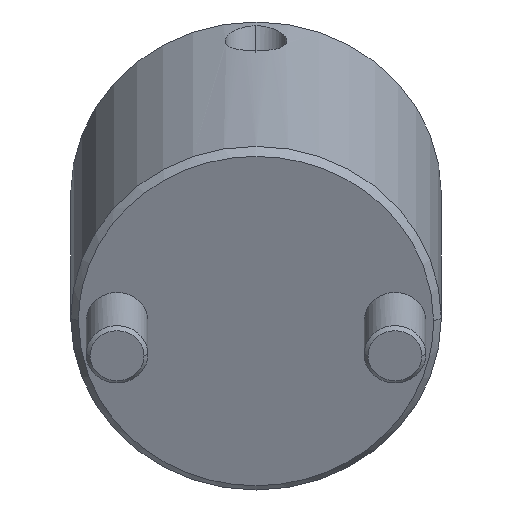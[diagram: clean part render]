
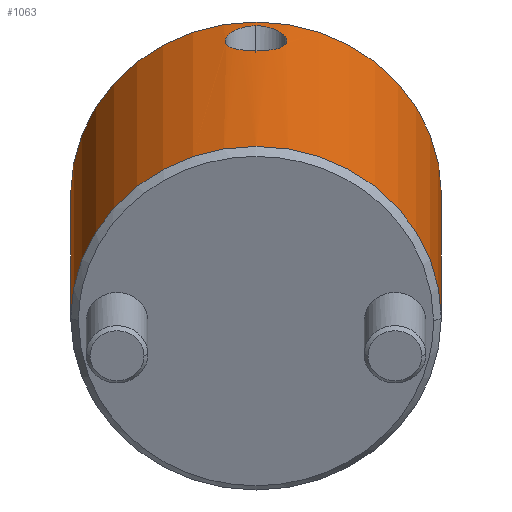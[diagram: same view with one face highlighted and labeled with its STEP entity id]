
A CAD part, front view. The second image highlights one B-rep face of the part: STEP entity #1063.
In plain terms, the highlighted cylindrical face has radius 24 mm (diameter 48 mm), a partial arc.
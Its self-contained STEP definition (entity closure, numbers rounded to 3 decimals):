
#805=CARTESIAN_POINT('Vertex',(0.,24.,1.)) ;
#808=CARTESIAN_POINT('Axis2P3D Location',(0.,0.,1.)) ;
#812=CARTESIAN_POINT('Vertex',(0.,-24.,1.)) ;
#964=CARTESIAN_POINT('Axis2P3D Location',(0.,0.,-2.25)) ;
#969=CARTESIAN_POINT('Line Origine',(0.,24.,-2.25)) ;
#973=CARTESIAN_POINT('Vertex',(0.,24.,44.)) ;
#976=CARTESIAN_POINT('Axis2P3D Location',(0.,0.,44.)) ;
#980=CARTESIAN_POINT('Vertex',(0.,-24.,44.)) ;
#983=CARTESIAN_POINT('Line Origine',(0.,-24.,-2.25)) ;
#995=CARTESIAN_POINT('Control Point',(24.,0.,42.696)) ;
#996=CARTESIAN_POINT('Control Point',(24.,0.373,42.696)) ;
#997=CARTESIAN_POINT('Control Point',(23.993,0.739,42.646)) ;
#998=CARTESIAN_POINT('Control Point',(23.979,1.097,42.549)) ;
#999=CARTESIAN_POINT('Control Point',(23.939,1.793,42.264)) ;
#1000=CARTESIAN_POINT('Control Point',(23.881,2.415,41.809)) ;
#1001=CARTESIAN_POINT('Control Point',(23.849,2.711,41.532)) ;
#1002=CARTESIAN_POINT('Control Point',(23.79,3.182,40.976)) ;
#1003=CARTESIAN_POINT('Control Point',(23.739,3.536,40.33)) ;
#1004=CARTESIAN_POINT('Control Point',(23.719,3.664,40.041)) ;
#1005=CARTESIAN_POINT('Control Point',(23.686,3.874,39.44)) ;
#1006=CARTESIAN_POINT('Control Point',(23.667,3.981,38.813)) ;
#1007=CARTESIAN_POINT('Control Point',(23.663,4.01,38.496)) ;
#1008=CARTESIAN_POINT('Control Point',(23.663,4.011,37.97)) ;
#1009=CARTESIAN_POINT('Control Point',(23.675,3.939,37.455)) ;
#1010=CARTESIAN_POINT('Control Point',(23.681,3.899,37.255)) ;
#1011=CARTESIAN_POINT('Control Point',(23.706,3.746,36.668)) ;
#1012=CARTESIAN_POINT('Control Point',(23.745,3.497,36.124)) ;
#1013=CARTESIAN_POINT('Control Point',(23.775,3.289,35.783)) ;
#1014=CARTESIAN_POINT('Control Point',(23.832,2.858,35.241)) ;
#1015=CARTESIAN_POINT('Control Point',(23.889,2.326,34.806)) ;
#1016=CARTESIAN_POINT('Control Point',(23.911,2.084,34.644)) ;
#1017=CARTESIAN_POINT('Control Point',(23.954,1.546,34.35)) ;
#1018=CARTESIAN_POINT('Control Point',(23.984,0.96,34.166)) ;
#1019=CARTESIAN_POINT('Control Point',(23.995,0.644,34.1)) ;
#1020=CARTESIAN_POINT('Control Point',(24.,0.323,34.068)) ;
#1021=CARTESIAN_POINT('Control Point',(24.,0.,34.068)) ;
#1022=CARTESIAN_POINT('Vertex',(24.,0.,42.696)) ;
#1024=CARTESIAN_POINT('Vertex',(24.,0.,34.068)) ;
#1028=CARTESIAN_POINT('Control Point',(24.,0.,34.068)) ;
#1029=CARTESIAN_POINT('Control Point',(24.,-0.486,34.068)) ;
#1030=CARTESIAN_POINT('Control Point',(23.988,-0.966,34.141)) ;
#1031=CARTESIAN_POINT('Control Point',(23.963,-1.435,34.289)) ;
#1032=CARTESIAN_POINT('Control Point',(23.91,-2.136,34.637)) ;
#1033=CARTESIAN_POINT('Control Point',(23.846,-2.731,35.144)) ;
#1034=CARTESIAN_POINT('Control Point',(23.821,-2.936,35.354)) ;
#1035=CARTESIAN_POINT('Control Point',(23.772,-3.308,35.815)) ;
#1036=CARTESIAN_POINT('Control Point',(23.73,-3.592,36.337)) ;
#1037=CARTESIAN_POINT('Control Point',(23.712,-3.712,36.613)) ;
#1038=CARTESIAN_POINT('Control Point',(23.681,-3.903,37.188)) ;
#1039=CARTESIAN_POINT('Control Point',(23.665,-3.994,37.799)) ;
#1040=CARTESIAN_POINT('Control Point',(23.662,-4.014,38.113)) ;
#1041=CARTESIAN_POINT('Control Point',(23.664,-4.002,38.641)) ;
#1042=CARTESIAN_POINT('Control Point',(23.678,-3.918,39.161)) ;
#1043=CARTESIAN_POINT('Control Point',(23.686,-3.872,39.367)) ;
#1044=CARTESIAN_POINT('Control Point',(23.704,-3.758,39.776)) ;
#1045=CARTESIAN_POINT('Control Point',(23.729,-3.6,40.171)) ;
#1046=CARTESIAN_POINT('Control Point',(23.742,-3.51,40.362)) ;
#1047=CARTESIAN_POINT('Control Point',(23.771,-3.31,40.733)) ;
#1048=CARTESIAN_POINT('Control Point',(23.803,-3.071,41.078)) ;
#1049=CARTESIAN_POINT('Control Point',(23.82,-2.941,41.243)) ;
#1050=CARTESIAN_POINT('Control Point',(23.86,-2.605,41.624)) ;
#1051=CARTESIAN_POINT('Control Point',(23.898,-2.226,41.944)) ;
#1052=CARTESIAN_POINT('Control Point',(23.92,-1.985,42.113)) ;
#1053=CARTESIAN_POINT('Control Point',(23.959,-1.469,42.408)) ;
#1054=CARTESIAN_POINT('Control Point',(23.985,-0.91,42.595)) ;
#1055=CARTESIAN_POINT('Control Point',(23.995,-0.612,42.662)) ;
#1056=CARTESIAN_POINT('Control Point',(24.,-0.308,42.696)) ;
#1057=CARTESIAN_POINT('Control Point',(24.,0.,42.696)) ;
#809=DIRECTION('Axis2P3D Direction',(0.,0.,1.)) ;
#965=DIRECTION('Axis2P3D Direction',(0.,-0.,1.)) ;
#966=DIRECTION('Axis2P3D XDirection',(0.,-1.,0.)) ;
#970=DIRECTION('Vector Direction',(0.,0.,1.)) ;
#977=DIRECTION('Axis2P3D Direction',(0.,-0.,1.)) ;
#984=DIRECTION('Vector Direction',(0.,0.,1.)) ;
#810=AXIS2_PLACEMENT_3D('Circle Axis2P3D',#808,#809,$) ;
#967=AXIS2_PLACEMENT_3D('Cylinder Axis2P3D',#964,#965,#966) ;
#978=AXIS2_PLACEMENT_3D('Circle Axis2P3D',#976,#977,$) ;
#989=ORIENTED_EDGE('',*,*,#975,.F.) ;
#990=ORIENTED_EDGE('',*,*,#982,.T.) ;
#991=ORIENTED_EDGE('',*,*,#987,.T.) ;
#992=ORIENTED_EDGE('',*,*,#814,.F.) ;
#1060=ORIENTED_EDGE('',*,*,#1026,.T.) ;
#1061=ORIENTED_EDGE('',*,*,#1058,.T.) ;
#1062=FACE_BOUND('',#1059,.T.) ;
#971=VECTOR('Line Direction',#970,1.) ;
#985=VECTOR('Line Direction',#984,1.) ;
#1063=ADVANCED_FACE('MANIFOLD_SOLID_BREP #1138',(#993,#1062),#968,.T.) ;
#994=B_SPLINE_CURVE_WITH_KNOTS('',5,(#995,#996,#997,#998,#999,#1000,#1001,#1002,#1003,#1004,#1005,#1006,#1007,#1008,#1009,#1010,#1011,#1012,#1013,#1014,#1015,#1016,#1017,#1018,#1019,#1020,#1021),.UNSPECIFIED.,.F.,.U.,(6,3,3,3,3,3,3,3,6),(0.,2.693,5.526,7.708,9.869,11.292,14.112,16.208,18.526),.UNSPECIFIED.) ;
#1027=B_SPLINE_CURVE_WITH_KNOTS('',5,(#1028,#1029,#1030,#1031,#1032,#1033,#1034,#1035,#1036,#1037,#1038,#1039,#1040,#1041,#1042,#1043,#1044,#1045,#1046,#1047,#1048,#1049,#1050,#1051,#1052,#1053,#1054,#1055,#1056,#1057),.UNSPECIFIED.,.F.,.U.,(6,3,3,3,3,3,3,3,3,6),(0.,3.487,5.592,7.718,9.853,11.307,12.759,14.188,16.298,18.521),.UNSPECIFIED.) ;
#811=CIRCLE('generated circle',#810,24.) ;
#979=CIRCLE('generated circle',#978,24.) ;
#968=CYLINDRICAL_SURFACE('generated cylinder',#967,24.) ;
#814=EDGE_CURVE('',#806,#813,#811,.F.) ;
#975=EDGE_CURVE('',#974,#806,#972,.F.) ;
#982=EDGE_CURVE('',#974,#981,#979,.F.) ;
#987=EDGE_CURVE('',#981,#813,#986,.F.) ;
#1026=EDGE_CURVE('',#1023,#1025,#994,.T.) ;
#1058=EDGE_CURVE('',#1025,#1023,#1027,.T.) ;
#988=EDGE_LOOP('',(#989,#990,#991,#992)) ;
#1059=EDGE_LOOP('',(#1060,#1061)) ;
#993=FACE_OUTER_BOUND('',#988,.T.) ;
#972=LINE('Line',#969,#971) ;
#986=LINE('Line',#983,#985) ;
#806=VERTEX_POINT('',#805) ;
#813=VERTEX_POINT('',#812) ;
#974=VERTEX_POINT('',#973) ;
#981=VERTEX_POINT('',#980) ;
#1023=VERTEX_POINT('',#1022) ;
#1025=VERTEX_POINT('',#1024) ;
